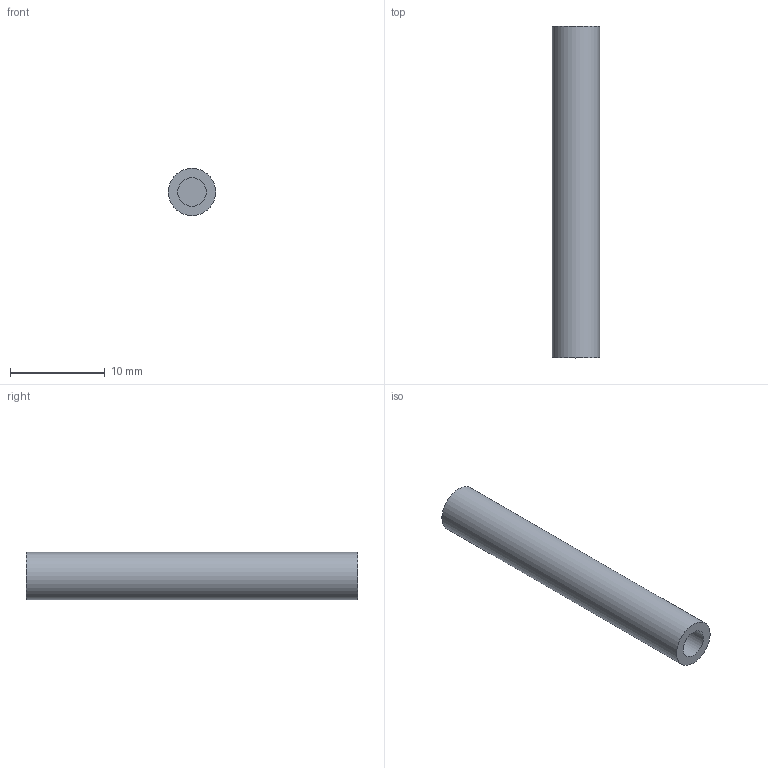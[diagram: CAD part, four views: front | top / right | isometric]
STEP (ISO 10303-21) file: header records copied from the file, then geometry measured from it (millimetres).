
FILE_DESCRIPTION(/* description */ (''),/* implementation_level */ '2;1');
FILE_NAME(/* name */ 'C:/Users/priba/Downloads/Spacer 3-35.step',/* time_stamp */ '2022-04-12T13:12:43+02:00',/* author */ (''),/* organization */ (''),/* preprocessor_version */ 'ST-DEVELOPER v18.1',/* originating_system */ 'Autodesk Translation Framework v10.13.0.1454',/* authorisation */ '');
FILE_SCHEMA (('AUTOMOTIVE_DESIGN { 1 0 10303 214 3 1 1 }'));
Length unit declared in the file: millimetre
Products named in the file (1): Spacer 3-35
Bounding box: 5 x 35 x 5 mm (x, y, z)
Volume: 602.4 mm3; surface area: 702.1 mm2
Topology: 1 solids, 1 shells, 7 faces, 9 edges, 6 vertices
Faces by surface type: plane 4, cylinder 3
Full cylindrical faces by diameter (mm): 3 x2, 5 x1
Entity records: 182 total; most frequent: DIRECTION 31, CARTESIAN_POINT 23, ORIENTED_EDGE 18, AXIS2_PLACEMENT_3D 14, EDGE_LOOP 9, EDGE_CURVE 9, FACE_OUTER_BOUND 7, ADVANCED_FACE 7
